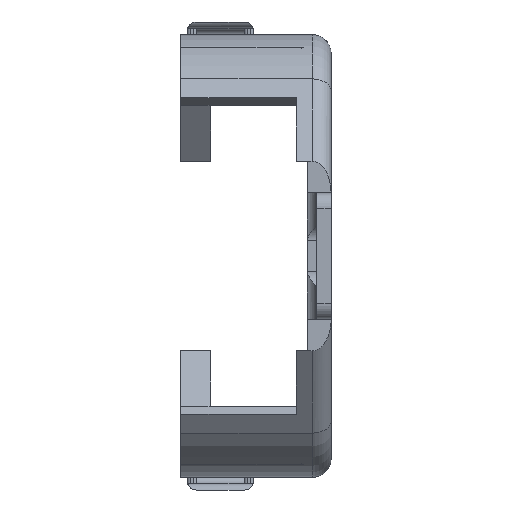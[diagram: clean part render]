
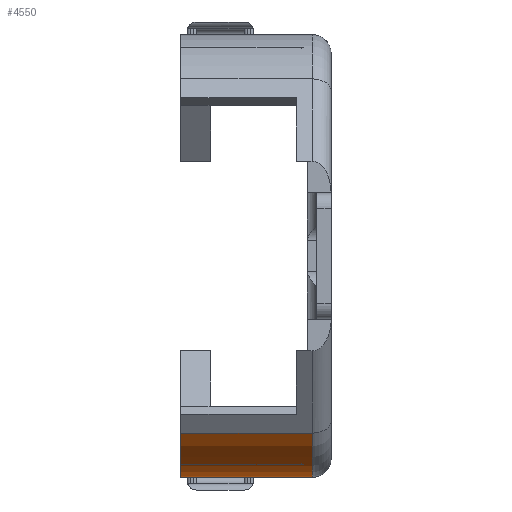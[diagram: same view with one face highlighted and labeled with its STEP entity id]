
A CAD part, left-side view. The second image highlights one B-rep face of the part: STEP entity #4550.
In plain terms, the highlighted cylindrical face has radius 35 mm (diameter 70 mm), a partial arc.
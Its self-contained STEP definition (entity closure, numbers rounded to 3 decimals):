
#498 = DIRECTION ( 'NONE',  ( 0., 1., 0. ) ) ;
#727 = AXIS2_PLACEMENT_3D ( 'NONE', #3101, #2090, #4471 ) ;
#730 = FACE_OUTER_BOUND ( 'NONE', #5646, .T. ) ;
#835 = CIRCLE ( 'NONE', #727, 35. ) ;
#1000 = LINE ( 'NONE', #5577, #1155 ) ;
#1155 = VECTOR ( 'NONE', #4586, 1000. ) ;
#1732 = CARTESIAN_POINT ( 'NONE',  ( -52.5, 7.5, -35. ) ) ;
#1888 = VERTEX_POINT ( 'NONE', #6370 ) ;
#1945 = LINE ( 'NONE', #2471, #2130 ) ;
#1989 = AXIS2_PLACEMENT_3D ( 'NONE', #1732, #3210, #2199 ) ;
#2090 = DIRECTION ( 'NONE',  ( 0., 1., 0. ) ) ;
#2130 = VECTOR ( 'NONE', #498, 1000. ) ;
#2199 = DIRECTION ( 'NONE',  ( 0., 0., -1. ) ) ;
#2471 = CARTESIAN_POINT ( 'NONE',  ( -52.5, 7.5, -70. ) ) ;
#2489 = CIRCLE ( 'NONE', #4590, 35. ) ;
#2555 = ORIENTED_EDGE ( 'NONE', *, *, #4834, .T. ) ;
#2785 = CARTESIAN_POINT ( 'NONE',  ( -52.5, 47.5, -70. ) ) ;
#2943 = VERTEX_POINT ( 'NONE', #5717 ) ;
#3101 = CARTESIAN_POINT ( 'NONE',  ( -52.5, 6., -35. ) ) ;
#3173 = CYLINDRICAL_SURFACE ( 'NONE', #1989, 35. ) ;
#3210 = DIRECTION ( 'NONE',  ( 0., -1., 0. ) ) ;
#3260 = DIRECTION ( 'NONE',  ( 0., 0., -1. ) ) ;
#3553 = EDGE_CURVE ( 'NONE', #1888, #4198, #1945, .T. ) ;
#4198 = VERTEX_POINT ( 'NONE', #2785 ) ;
#4378 = EDGE_CURVE ( 'NONE', #2943, #4964, #1000, .T. ) ;
#4471 = DIRECTION ( 'NONE',  ( 0., 0., 1. ) ) ;
#4550 = ADVANCED_FACE ( 'NONE', ( #730 ), #3173, .T. ) ;
#4586 = DIRECTION ( 'NONE',  ( 0., -1., 0. ) ) ;
#4590 = AXIS2_PLACEMENT_3D ( 'NONE', #5763, #4666, #3260 ) ;
#4641 = CARTESIAN_POINT ( 'NONE',  ( -80.5, 6., -56. ) ) ;
#4666 = DIRECTION ( 'NONE',  ( 0., 1., 0. ) ) ;
#4834 = EDGE_CURVE ( 'NONE', #1888, #4964, #835, .T. ) ;
#4964 = VERTEX_POINT ( 'NONE', #4641 ) ;
#5420 = EDGE_CURVE ( 'NONE', #4198, #2943, #2489, .T. ) ;
#5465 = ORIENTED_EDGE ( 'NONE', *, *, #3553, .F. ) ;
#5577 = CARTESIAN_POINT ( 'NONE',  ( -80.5, 7.5, -56. ) ) ;
#5646 = EDGE_LOOP ( 'NONE', ( #5465, #2555, #6033, #6166 ) ) ;
#5717 = CARTESIAN_POINT ( 'NONE',  ( -80.5, 47.5, -56. ) ) ;
#5763 = CARTESIAN_POINT ( 'NONE',  ( -52.5, 47.5, -35. ) ) ;
#6033 = ORIENTED_EDGE ( 'NONE', *, *, #4378, .F. ) ;
#6166 = ORIENTED_EDGE ( 'NONE', *, *, #5420, .F. ) ;
#6370 = CARTESIAN_POINT ( 'NONE',  ( -52.5, 6., -70. ) ) ;
